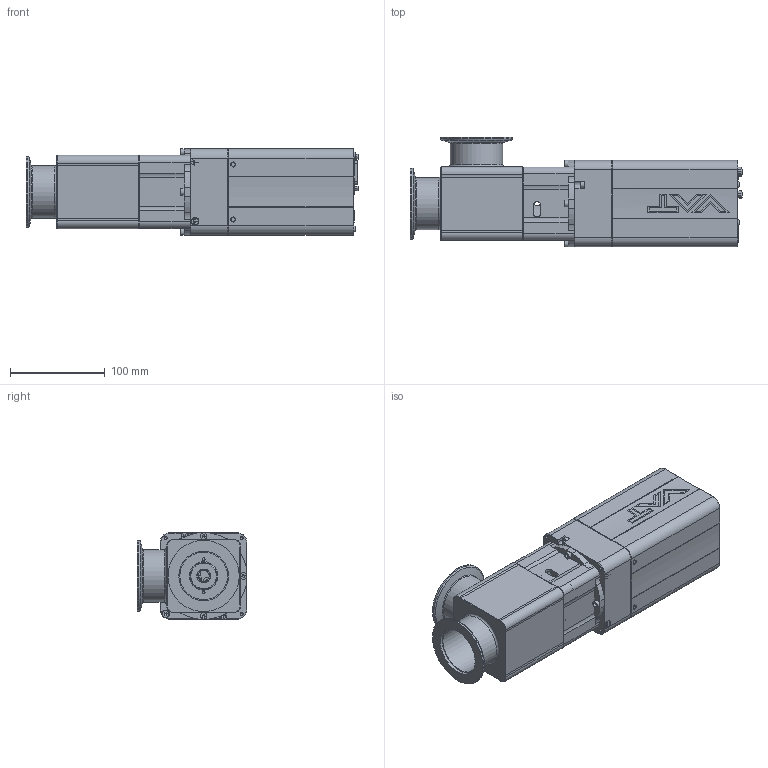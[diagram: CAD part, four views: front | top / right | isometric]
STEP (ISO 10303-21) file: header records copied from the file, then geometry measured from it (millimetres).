
FILE_DESCRIPTION(/* description */ (''),/* implementation_level */ '2;1');
FILE_NAME(/* name */ '1878212902_203.stp',/* time_stamp */ '2023-07-26T00:59:25+02:00',/* author */ (''),/* organization */ (''),/* preprocessor_version */ 'ST-DEVELOPER v19.3',/* originating_system */ 'SIEMENS PLM Software NX2212.3001',/* authorisation */ '');
FILE_SCHEMA (('AP203_CONFIGURATION_CONTROLLED_3D_DESIGN_OF_MECHANICAL_PARTS_AND_ASSEMBLIES_MIM_LF { 1 0 10303 403 2 1 2}'));
Products named in the file (34): 763111_39940ID; 847466; 847207; N-E505-079.1; 1068693; 1062206; 256121.2; 1062205; 847458; 868520; 325243.3; n-6092-098.1; n-6092-104.1; 1091110; n-6160-408.1; n-6134-406.1; 801149; 234226.1; 245076.2_39875ID; n-6241-084.1; 1120327; 236055.1; 218190.1; 854507; 983920_NX-ARRAGMNTArrangement 1; 847243_MODEL; 921267_MODEL; 868577; 983922_NX-ARRAGMNTohne Option Board; 1091106_MODEL; 1212524; 949877_MODEL; 1120322_MODEL; 942163
Assembly tree (55 placements, depth 7):
  942163
    218190.1  x4
    236055.1  x4
    1120322_MODEL
      1120327
      n-6241-084.1
    949877_MODEL
      245076.2_39875ID
    1212524
      234226.1  x2
      801149
      n-6134-406.1
      n-6160-408.1
      1091106_MODEL
        1091110
        n-6092-104.1
        n-6092-098.1
      983922_NX-ARRAGMNTohne Option Board
        868577
          921267_MODEL
            847243_MODEL
              763111_39940ID
          847458  x2
        325243.3  x4
        868520
        983920_NX-ARRAGMNTArrangement 1
          854507
            847207
            847458  x2
            847466  x3
          1062205
          256121.2  x5
          1062206
          1068693
          N-E505-079.1  x4
Bounding box: 349.6 x 115.5 x 91.1 mm (x, y, z)
Volume: 732703 mm3; surface area: 306026.6 mm2
Topology: 74 solids, 74 shells, 5083 faces, 13975 edges, 9357 vertices
Faces by surface type: plane 3930, extrusion 535, cylinder 446, cone 135, torus 25, bspline 8, sphere 4
Full cylindrical faces by diameter (mm): 0.55 x1, 0.65 x1, 1 x15, 1.01 x15, 2 x1, 2.449 x4, 2.459 x7, 2.5 x12, 3 x15, 3.2 x8, 3.26 x7, 3.3 x19, 3.5 x2, 3.78 x4, 3.88 x3, 3.99 x4, 4 x19, 4.006 x2, 4.05 x2, 4.15 x2, 4.19 x3, 4.2 x13, 4.24 x2, 4.3 x5, 4.5 x6, 4.96 x4, 5 x8, 5.5 x5, 6 x12, 6.1 x3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
Entity records: 202315 total; most frequent: CARTESIAN_POINT 61014, ORIENTED_EDGE 25804, DIRECTION 18305, EDGE_CURVE 12902, VERTEX_POINT 8816, VECTOR 8055, LINE 7520, EDGE_LOOP 5408
